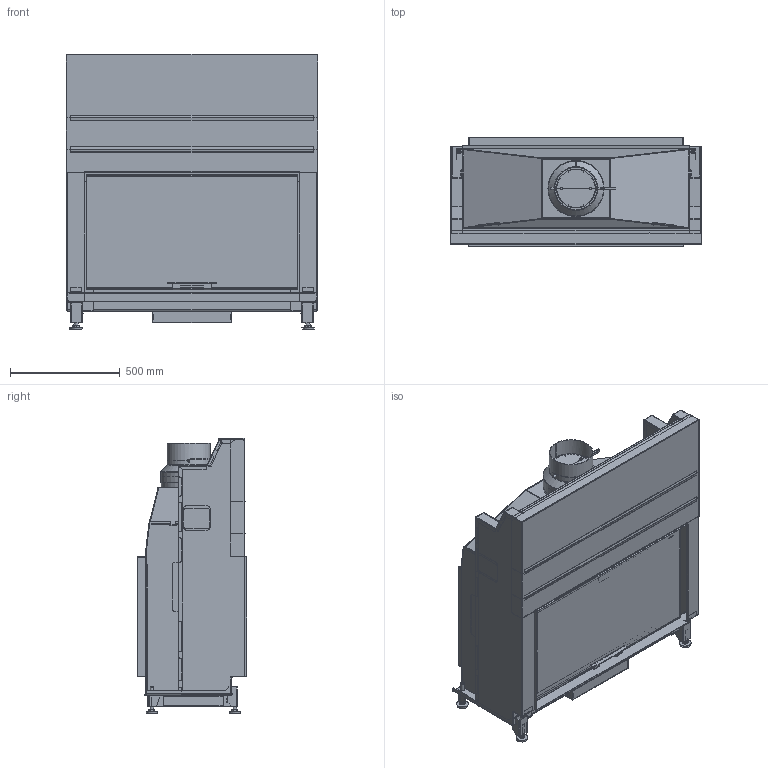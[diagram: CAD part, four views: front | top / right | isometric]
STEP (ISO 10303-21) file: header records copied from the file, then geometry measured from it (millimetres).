
FILE_DESCRIPTION(/* description */ (''),/* implementation_level */ '2;1');
FILE_NAME(/* name */ 'O:\F&E\02_ Produkte\Violino 55x98 Tunnel\3D Export Files\Violino_Tunnel_55x98_Oben_Gen1_2023-00575.stp',/* time_stamp */ '2023-02-16T12:54:53+01:00',/* author */ ('TIS'),/* organization */ (''),/* preprocessor_version */ 'ST-DEVELOPER v18.1',/* originating_system */ 'Autodesk Inventor 2022',/* authorisation */ '');
FILE_SCHEMA (('AUTOMOTIVE_DESIGN { 1 0 10303 214 3 1 1 }'));
Products named in the file (10): 2023-00575; 2023-00551; 2023-00549; 2023-00548; 2023-00547; 2023-00542; 2023-00539; 2023-00534; 2016-00457; 2016-00459
Assembly tree (9 placements, depth 2):
  2023-00575
    2023-00551
    2023-00549
    2023-00548
    2023-00547
    2023-00542
    2023-00539
    2023-00534
    2016-00457
    2016-00459
Bounding box: 1146 x 499.5 x 1255 mm (x, y, z)
Volume: 26171941.7 mm3; surface area: 18012245.1 mm2
Topology: 8 solids, 13 shells, 5307 faces, 14374 edges, 8968 vertices
Faces by surface type: plane 2956, cylinder 2019, bspline 191, cone 110, torus 31
Full cylindrical faces by diameter (mm): 4.5 x4, 6 x3, 10 x3, 16 x10, 30 x4, 244 x1, 250 x1
Entity records: 176736 total; most frequent: CARTESIAN_POINT 35847, ORIENTED_EDGE 28786, DIRECTION 28043, EDGE_CURVE 14405, LINE 9555, VECTOR 9555, AXIS2_PLACEMENT_3D 9244, VERTEX_POINT 8987
